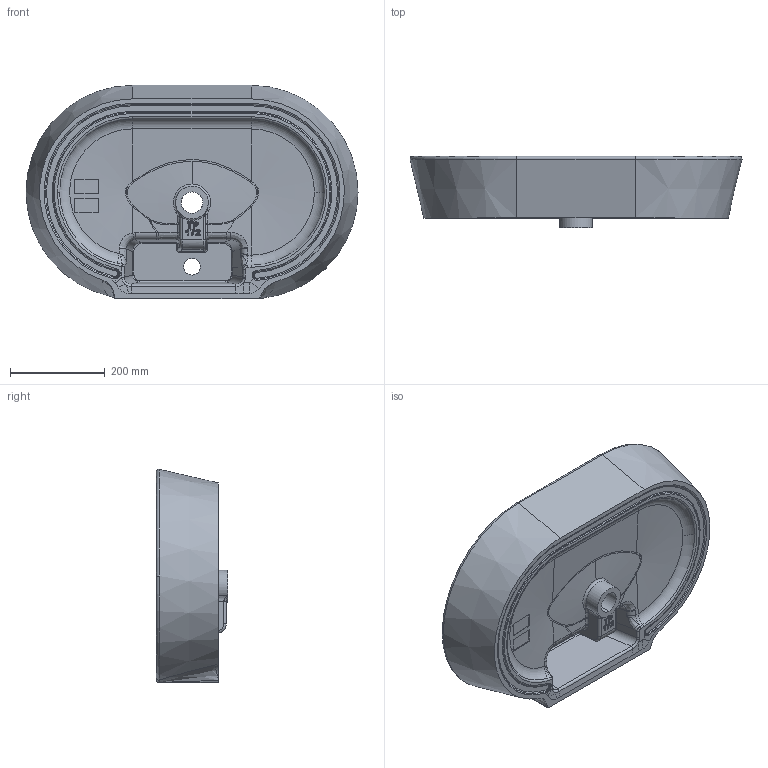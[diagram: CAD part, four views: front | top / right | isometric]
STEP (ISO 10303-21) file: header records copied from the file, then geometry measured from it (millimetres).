
FILE_DESCRIPTION (( 'STEP AP203' ), '1' );
FILE_NAME ('TP172-00CB00E-AK00.STEP', '2022-04-22T10:08:05', ( '' ), ( '' ), 'SwSTEP 2.0', 'SolidWorks 2021', '' );
FILE_SCHEMA (( 'CONFIG_CONTROL_DESIGN' ));
Length unit declared in the file: millimetre
Products named in the file (1): TP172-00CB00E-AK00
Bounding box: 700.18 x 150 x 450.09 mm (x, y, z)
Volume: 15008214.3 mm3; surface area: 901700.3 mm2
Topology: 1 solids, 1 shells, 543 faces, 1283 edges, 715 vertices
Faces by surface type: bspline 194, cylinder 157, plane 75, torus 70, sphere 37, cone 10
Entity records: 31985 total; most frequent: CARTESIAN_POINT 20983, ORIENTED_EDGE 2482, DIRECTION 2071, EDGE_CURVE 1241, AXIS2_PLACEMENT_3D 869, VERTEX_POINT 710, EDGE_LOOP 557, ADVANCED_FACE 543
